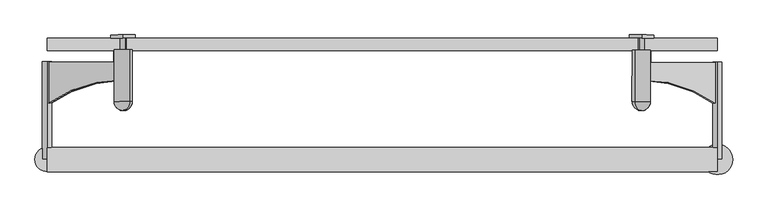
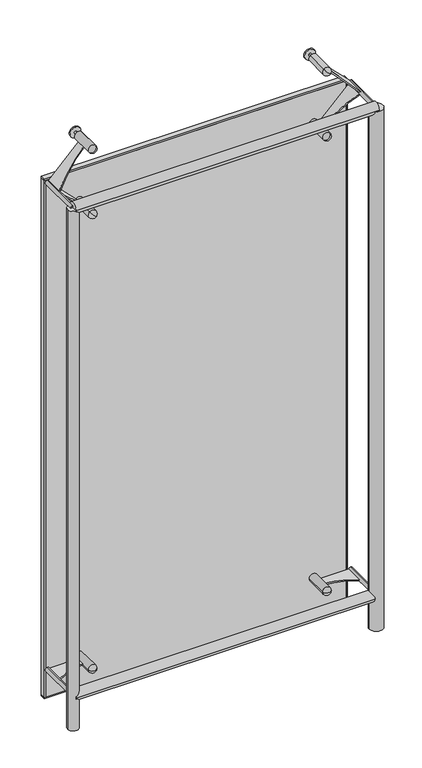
"""IFC4 building model written with IfcOpenShell, lengths in millimetres: plate geometry, FLATNING_TRYOUT : FLATNING_TRYOUT."""

from ifc_helpers import new_model, si_unit, point, frame, frame_2d, origin, origin_with_axes, place, context, project, spatial, polyline, circle_curve, ellipse_curve, trimmed, segment, composite_curve, outline, extrude, source, transform, mapped, element, save
from ifc_brep_helpers import plane_surface, cylinder_surface, revolved_surface, advanced_brep


def plate_8050aac1(model_context):
    return source(origin(), model_context, "Body", "SolidModel", [
        extrude(outline(composite_curve([segment(polyline([(29.9999999, 0.0), (30.0, -177.0), (-40.0000001, -177.0)]), True, "CONTINUOUS"), segment(trimmed(circle_curve(frame_2d((-375.1980994, -8.2292431)), 375.2883348), [point((-40.0000001, -177.0))], [point((0.0, 0.0))], True, "CARTESIAN"), True, "CONTINUOUS"), segment(polyline([(0.0, 0.0), (29.9999999, 0.0)]), True, "CONTINUOUS")], self_intersect=False)), frame((425.2156771, -69.2674093, 2123.3901333), z_axis=(0.7070974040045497, -0.003641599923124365, 0.7071067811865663), x_axis=(0.005150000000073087, 0.9999867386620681, 0.0)), (0.0, 0.0, 1.0), 5.0),
        advanced_brep(
        [(427.3439206, 0.7225584, 2125.1579003), (430.8794076, 0.7043504, 2121.6223664), (423.8084336, 0.7407664, 2128.6934342), (416.6344596, -19.2225524, 2135.764502), (437.8473817, -19.3318004, 2114.5512986), (437.4096317, -104.3306732, 2114.5512986), (416.1967096, -104.2214252, 2135.764502), (423.7054336, -19.2589684, 2128.6934342), (430.7764076, -19.2953844, 2121.6223664), (426.7259206, -119.2758503, 2125.1579003)],
        [
            (0, 1),
            (1, 2, circle_curve(frame((427.3439206, 0.7225584, 2125.1579003), z_axis=(0.005150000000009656, 0.9999867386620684, 0.0), x_axis=(0.7070974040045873, -0.0036415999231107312, -0.7071067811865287)), 5.0)),
            (2, 0),
            (2, 1, circle_curve(frame((427.3439206, 0.7225584, 2125.1579003), z_axis=(0.005150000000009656, 0.9999867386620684, 0.0), x_axis=(0.7070974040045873, -0.0036415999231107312, -0.7071067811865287)), 5.0)),
            (3, 4, circle_curve(frame((427.2409206, -19.2771764, 2125.1579003), z_axis=(-0.005150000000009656, -0.9999867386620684, 0.0), x_axis=(0.7070974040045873, -0.0036415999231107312, -0.7071067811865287)), 15.0)),
            (4, 5),
            (5, 6, circle_curve(frame((426.8031706, -104.2760492, 2125.1579003), z_axis=(0.005150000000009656, 0.9999867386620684, 0.0), x_axis=(0.7070974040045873, -0.0036415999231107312, -0.7071067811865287)), 15.0)),
            (6, 3),
            (4, 3, circle_curve(frame((427.2409206, -19.2771764, 2125.1579003), z_axis=(-0.005150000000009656, -0.9999867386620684, 0.0), x_axis=(0.7070974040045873, -0.0036415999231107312, -0.7071067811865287)), 15.0)),
            (6, 5, circle_curve(frame((426.8031706, -104.2760492, 2125.1579003), z_axis=(0.005150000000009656, 0.9999867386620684, 0.0), x_axis=(0.7070974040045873, -0.0036415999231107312, -0.7071067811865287)), 15.0)),
            (7, 8, circle_curve(frame((427.2409206, -19.2771764, 2125.1579003), z_axis=(-0.005150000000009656, -0.9999867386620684, 0.0), x_axis=(0.7070974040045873, -0.0036415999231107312, -0.7071067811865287)), 5.0)),
            (8, 4),
            (3, 7),
            (8, 7, circle_curve(frame((427.2409206, -19.2771764, 2125.1579003), z_axis=(-0.005150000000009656, -0.9999867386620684, 0.0), x_axis=(0.7070974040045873, -0.0036415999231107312, -0.7071067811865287)), 5.0)),
            (1, 8),
            (7, 2),
            (5, 9, circle_curve(frame((426.8031706, -104.2760492, 2125.1579003), z_axis=(-0.7070974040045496, 0.0036415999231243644, -0.7071067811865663), x_axis=(0.7070974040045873, -0.0036415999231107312, -0.7071067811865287)), 15.0)),
            (9, 6, circle_curve(frame((426.8031706, -104.2760492, 2125.1579003), z_axis=(-0.7070974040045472, 0.0036415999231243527, -0.7071067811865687), x_axis=(-0.7070974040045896, 0.003641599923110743, 0.7071067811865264)), 15.0)),
        ],
        [
            plane_surface(frame((427.3439206, 0.7225584, 2125.1579003), z_axis=(0.005150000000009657, 0.9999867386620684, 0.0), x_axis=(0.7070974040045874, -0.0036415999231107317, -0.7071067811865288))),
            cylinder_surface(frame((430.0734206, 530.7155299, 2125.1579003), z_axis=(0.005150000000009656, 0.9999867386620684, 0.0), x_axis=(0.7070974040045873, -0.0036415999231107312, -0.7071067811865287)), 15.0),
            plane_surface(frame((427.2409206, -19.2771764, 2125.1579003), z_axis=(0.005150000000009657, 0.9999867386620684, 0.0), x_axis=(0.7070974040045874, -0.0036415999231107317, -0.7071067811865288))),
            cylinder_surface(frame((430.0734206, 530.7155299, 2125.1579003), z_axis=(0.005150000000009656, 0.9999867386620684, 0.0), x_axis=(0.7070974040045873, -0.0036415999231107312, -0.7071067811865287)), 5.0),
            revolved_surface(trimmed(ellipse_curve(frame((426.8031706, -104.2760492, 2125.1579003), z_axis=(0.7070974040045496, -0.0036415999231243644, 0.7071067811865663), x_axis=(0.7070974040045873, -0.0036415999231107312, -0.7071067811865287)), 15.0, 15.0), [point((426.7259206, -119.2758503, 2125.1579003))], [point((437.4096317, -104.3306732, 2114.5512986))], True, "CARTESIAN"), (430.0734206, 530.7155299, 2125.1579003), (0.005150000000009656, 0.9999867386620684, 0.0)),
        ],
        [
            (0, [[1, 2, 3]]),
            (0, [[-3, 4, -1]]),
            (1, [[5, 6, 7, 8]]),
            (1, [[9, -8, 10, -6]]),
            (2, [[11, 12, -5, 13]]),
            (2, [[14, -13, -9, -12]]),
            (3, [[-2, 15, -11, 16]]),
            (3, [[-4, -16, -14, -15]]),
            (4, [[-7, 17, 18]]),
            (4, [[-10, -18, -17]]),
        ],
    ),
        extrude(outline(composite_curve([segment(polyline([(-30.0, 0.0), (0.0, 0.0)]), True, "CONTINUOUS"), segment(trimmed(circle_curve(frame_2d((375.1980994, -8.2292431)), 375.2883348), [point((0.0, 0.0))], [point((40.0, -177.0))], True, "CARTESIAN"), True, "CONTINUOUS"), segment(polyline([(40.0, -177.0), (-30.0, -177.0), (-30.0, 0.0)]), True, "CONTINUOUS")], self_intersect=False)), frame((-425.2127575, -68.8166307, 2123.3901333), z_axis=(-0.7070974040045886, -0.003641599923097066, 0.7071067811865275), x_axis=(0.005150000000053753, -0.9999867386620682, 0.0)), (0.0, 0.0, 1.0), 5.0),
        advanced_brep(
        [(-427.341001, 1.173337, 2125.1579003), (-430.876488, 1.155129, 2121.6223664), (-423.805514, 1.191545, 2128.6934342), (-416.63154, -18.7717738, 2135.764502), (-437.8444621, -18.8810218, 2114.5512986), (-437.4067121, -103.8798945, 2114.5512986), (-416.19379, -103.7706466, 2135.764502), (-423.702514, -18.8081898, 2128.6934342), (-430.773488, -18.8446058, 2121.6223664), (-426.723001, -118.8250716, 2125.1579003)],
        [
            (0, 1),
            (1, 2, circle_curve(frame((-427.341001, 1.173337, 2125.1579003), z_axis=(-0.005149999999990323, 0.9999867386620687, 0.0), x_axis=(-0.7070974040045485, -0.0036415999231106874, -0.7071067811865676)), 5.0)),
            (2, 0),
            (2, 1, circle_curve(frame((-427.341001, 1.173337, 2125.1579003), z_axis=(-0.005149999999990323, 0.9999867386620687, 0.0), x_axis=(-0.7070974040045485, -0.0036415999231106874, -0.7071067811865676)), 5.0)),
            (3, 4, circle_curve(frame((-427.238001, -18.8263978, 2125.1579003), z_axis=(0.005149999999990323, -0.9999867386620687, 0.0), x_axis=(-0.7070974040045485, -0.0036415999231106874, -0.7071067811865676)), 15.0)),
            (4, 5),
            (5, 6, circle_curve(frame((-426.800251, -103.8252705, 2125.1579003), z_axis=(-0.005149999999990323, 0.9999867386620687, 0.0), x_axis=(-0.7070974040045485, -0.0036415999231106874, -0.7071067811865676)), 15.0)),
            (6, 3),
            (4, 3, circle_curve(frame((-427.238001, -18.8263978, 2125.1579003), z_axis=(0.005149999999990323, -0.9999867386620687, 0.0), x_axis=(-0.7070974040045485, -0.0036415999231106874, -0.7071067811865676)), 15.0)),
            (6, 5, circle_curve(frame((-426.800251, -103.8252705, 2125.1579003), z_axis=(-0.005149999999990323, 0.9999867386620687, 0.0), x_axis=(-0.7070974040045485, -0.0036415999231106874, -0.7071067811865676)), 15.0)),
            (7, 8, circle_curve(frame((-427.238001, -18.8263978, 2125.1579003), z_axis=(0.005149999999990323, -0.9999867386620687, 0.0), x_axis=(-0.7070974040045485, -0.0036415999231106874, -0.7071067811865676)), 5.0)),
            (8, 4),
            (3, 7),
            (8, 7, circle_curve(frame((-427.238001, -18.8263978, 2125.1579003), z_axis=(0.005149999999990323, -0.9999867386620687, 0.0), x_axis=(-0.7070974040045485, -0.0036415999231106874, -0.7071067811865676)), 5.0)),
            (1, 8),
            (7, 2),
            (5, 9, circle_curve(frame((-426.800251, -103.8252705, 2125.1579003), z_axis=(-0.7070974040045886, -0.003641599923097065, 0.7071067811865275), x_axis=(-0.7070974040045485, -0.0036415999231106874, -0.7071067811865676)), 15.0)),
            (9, 6, circle_curve(frame((-426.800251, -103.8252705, 2125.1579003), z_axis=(-0.707097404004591, -0.0036415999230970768, 0.7071067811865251), x_axis=(0.7070974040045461, 0.0036415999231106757, 0.7071067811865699)), 15.0)),
        ],
        [
            plane_surface(frame((-427.341001, 1.173337, 2125.1579003), z_axis=(-0.005149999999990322, 0.9999867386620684, 0.0), x_axis=(-0.7070974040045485, -0.0036415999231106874, -0.7071067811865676))),
            cylinder_surface(frame((-430.070501, 531.1663085, 2125.1579003), z_axis=(-0.005149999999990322, 0.9999867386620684, 0.0), x_axis=(-0.7070974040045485, -0.0036415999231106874, -0.7071067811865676)), 15.0),
            plane_surface(frame((-427.238001, -18.8263978, 2125.1579003), z_axis=(-0.005149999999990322, 0.9999867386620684, 0.0), x_axis=(-0.7070974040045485, -0.0036415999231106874, -0.7071067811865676))),
            cylinder_surface(frame((-430.070501, 531.1663085, 2125.1579003), z_axis=(-0.005149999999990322, 0.9999867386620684, 0.0), x_axis=(-0.7070974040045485, -0.0036415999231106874, -0.7071067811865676)), 5.0),
            revolved_surface(trimmed(ellipse_curve(frame((-426.800251, -103.8252705, 2125.1579003), z_axis=(0.7070974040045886, 0.003641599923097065, -0.7071067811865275), x_axis=(-0.7070974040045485, -0.0036415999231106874, -0.7071067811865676)), 15.0, 15.0), [point((-426.723001, -118.8250716, 2125.1579003))], [point((-437.4067121, -103.8798945, 2114.5512986))], True, "CARTESIAN"), (-430.070501, 531.1663085, 2125.1579003), (-0.005149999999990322, 0.9999867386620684, 0.0)),
        ],
        [
            (0, [[1, 2, 3]]),
            (0, [[-3, 4, -1]]),
            (1, [[5, 6, 7, 8]]),
            (1, [[9, -8, 10, -6]]),
            (2, [[11, 12, -5, 13]]),
            (2, [[14, -13, -9, -12]]),
            (3, [[-2, 15, -11, 16]]),
            (3, [[-4, -16, -14, -15]]),
            (4, [[-7, 17, 18]]),
            (4, [[-10, -18, -17]]),
        ],
    ),
        extrude(outline(composite_curve([segment(polyline([(30.0, 0.0), (30.0, -176.9999999), (-40.0, -176.9999999)]), True, "CONTINUOUS"), segment(trimmed(circle_curve(frame_2d((-375.1980994, -8.2292431)), 375.2883348), [point((-40.0, -176.9999999))], [point((0.0, 0.0))], True, "CARTESIAN"), True, "CONTINUOUS"), segment(polyline([(0.0, 0.0), (30.0, 0.0)]), True, "CONTINUOUS")], self_intersect=False)), frame((428.751003, -69.2856165, 1873.0743328), z_axis=(-0.7070974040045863, 0.0036415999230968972, 0.7071067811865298), x_axis=(0.005150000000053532, 0.9999867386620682, 0.0)), (0.0, 0.0, 1.0), 5.0),
        advanced_brep(
        [(427.3437595, 0.7225592, 1874.8420997), (430.8792465, 0.7043512, 1878.3776336), (423.8082725, 0.7407672, 1871.3065658), (416.6342984, -19.2225516, 1864.235498), (437.8472206, -19.3317996, 1885.4487014), (437.4094706, -104.3306723, 1885.4487014), (416.1965484, -104.2214243, 1864.235498), (423.7052725, -19.2589676, 1871.3065658), (430.7762465, -19.2953836, 1878.3776336), (426.7257595, -119.2758494, 1874.8420997)],
        [
            (0, 1),
            (1, 2, circle_curve(frame((427.3437595, 0.7225592, 1874.8420997), z_axis=(0.005149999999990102, 0.9999867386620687, 0.0), x_axis=(0.7070974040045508, -0.0036415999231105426, 0.7071067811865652)), 5.0)),
            (2, 0),
            (2, 1, circle_curve(frame((427.3437595, 0.7225592, 1874.8420997), z_axis=(0.005149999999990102, 0.9999867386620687, 0.0), x_axis=(0.7070974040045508, -0.0036415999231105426, 0.7071067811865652)), 5.0)),
            (3, 4, circle_curve(frame((427.2407595, -19.2771756, 1874.8420997), z_axis=(-0.005149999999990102, -0.9999867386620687, 0.0), x_axis=(0.7070974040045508, -0.0036415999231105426, 0.7071067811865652)), 15.0)),
            (4, 5),
            (5, 6, circle_curve(frame((426.8030095, -104.2760483, 1874.8420997), z_axis=(0.005149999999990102, 0.9999867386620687, 0.0), x_axis=(0.7070974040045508, -0.0036415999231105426, 0.7071067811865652)), 15.0)),
            (6, 3),
            (4, 3, circle_curve(frame((427.2407595, -19.2771756, 1874.8420997), z_axis=(-0.005149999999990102, -0.9999867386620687, 0.0), x_axis=(0.7070974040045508, -0.0036415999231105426, 0.7071067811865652)), 15.0)),
            (6, 5, circle_curve(frame((426.8030095, -104.2760483, 1874.8420997), z_axis=(0.005149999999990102, 0.9999867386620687, 0.0), x_axis=(0.7070974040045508, -0.0036415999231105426, 0.7071067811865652)), 15.0)),
            (7, 8, circle_curve(frame((427.2407595, -19.2771756, 1874.8420997), z_axis=(-0.005149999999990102, -0.9999867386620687, 0.0), x_axis=(0.7070974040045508, -0.0036415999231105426, 0.7071067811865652)), 5.0)),
            (8, 4),
            (3, 7),
            (8, 7, circle_curve(frame((427.2407595, -19.2771756, 1874.8420997), z_axis=(-0.005149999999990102, -0.9999867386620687, 0.0), x_axis=(0.7070974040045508, -0.0036415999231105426, 0.7071067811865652)), 5.0)),
            (1, 8),
            (7, 2),
            (5, 9, circle_curve(frame((426.8030095, -104.2760483, 1874.8420997), z_axis=(0.7070974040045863, -0.0036415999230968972, -0.7071067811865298), x_axis=(0.7070974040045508, -0.0036415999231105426, 0.7071067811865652)), 15.0)),
            (9, 6, circle_curve(frame((426.8030095, -104.2760483, 1874.8420997), z_axis=(0.7070974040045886, -0.003641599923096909, -0.7071067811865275), x_axis=(-0.7070974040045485, 0.003641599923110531, -0.7071067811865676)), 15.0)),
        ],
        [
            plane_surface(frame((427.3437595, 0.7225592, 1874.8420997), z_axis=(0.005149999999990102, 0.9999867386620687, 0.0), x_axis=(0.7070974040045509, -0.003641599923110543, 0.7071067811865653))),
            cylinder_surface(frame((430.0732595, 530.7155307, 1874.8420997), z_axis=(0.005149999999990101, 0.9999867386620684, 0.0), x_axis=(0.7070974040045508, -0.0036415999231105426, 0.7071067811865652)), 15.0),
            plane_surface(frame((427.2407595, -19.2771756, 1874.8420997), z_axis=(0.005149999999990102, 0.9999867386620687, 0.0), x_axis=(0.7070974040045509, -0.003641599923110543, 0.7071067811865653))),
            cylinder_surface(frame((430.0732595, 530.7155307, 1874.8420997), z_axis=(0.005149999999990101, 0.9999867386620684, 0.0), x_axis=(0.7070974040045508, -0.0036415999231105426, 0.7071067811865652)), 5.0),
            revolved_surface(trimmed(ellipse_curve(frame((426.8030095, -104.2760483, 1874.8420997), z_axis=(-0.7070974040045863, 0.0036415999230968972, 0.7071067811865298), x_axis=(0.7070974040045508, -0.0036415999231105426, 0.7071067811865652)), 15.0, 15.0), [point((426.7257595, -119.2758494, 1874.8420997))], [point((437.4094706, -104.3306723, 1885.4487014))], True, "CARTESIAN"), (430.0732595, 530.7155307, 1874.8420997), (0.005149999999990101, 0.9999867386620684, 0.0)),
        ],
        [
            (0, [[1, 2, 3]]),
            (0, [[-3, 4, -1]]),
            (1, [[5, 6, 7, 8]]),
            (1, [[9, -8, 10, -6]]),
            (2, [[11, 12, -5, 13]]),
            (2, [[14, -13, -9, -12]]),
            (3, [[-2, 15, -11, 16]]),
            (3, [[-4, -16, -14, -15]]),
            (4, [[-7, 17, 18]]),
            (4, [[-10, -18, -17]]),
        ],
    ),
        extrude(outline(composite_curve([segment(polyline([(30.0, 0.0), (0.0, 0.0)]), True, "CONTINUOUS"), segment(trimmed(circle_curve(frame_2d((-375.1980994, 8.2292431)), 375.2883348), [point((0.0, 0.0))], [point((-40.0, 176.9999999))], True, "CARTESIAN"), True, "CONTINUOUS"), segment(polyline([(-40.0, 176.9999999), (30.0, 176.9999999), (30.0, 0.0)]), True, "CONTINUOUS")], self_intersect=False)), frame((-428.751003, -69.2856165, 1873.0743328), z_axis=(0.7070974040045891, 0.003641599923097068, 0.707106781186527), x_axis=(-0.005150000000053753, 0.9999867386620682, 0.0)), (0.0, 0.0, 1.0), 5.0),
        advanced_brep(
        [(-427.3437595, 0.7225592, 1874.8420997), (-423.8082725, 0.7407672, 1871.3065658), (-430.8792465, 0.7043512, 1878.3776336), (-416.6342984, -19.2225516, 1864.235498), (-416.1965484, -104.2214243, 1864.235498), (-437.4094706, -104.3306723, 1885.4487014), (-437.8472206, -19.3317996, 1885.4487014), (-423.7052725, -19.2589676, 1871.3065658), (-430.7762465, -19.2953836, 1878.3776336), (-426.7257595, -119.2758494, 1874.8420997)],
        [
            (0, 1),
            (1, 2, circle_curve(frame((-427.3437595, 0.7225592, 1874.8420997), z_axis=(-0.005149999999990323, 0.9999867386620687, 0.0), x_axis=(-0.707097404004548, -0.003641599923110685, 0.707106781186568)), 5.0)),
            (2, 0),
            (2, 1, circle_curve(frame((-427.3437595, 0.7225592, 1874.8420997), z_axis=(-0.005149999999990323, 0.9999867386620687, 0.0), x_axis=(-0.707097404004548, -0.003641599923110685, 0.707106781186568)), 5.0)),
            (3, 4),
            (4, 5, circle_curve(frame((-426.8030095, -104.2760483, 1874.8420997), z_axis=(-0.005149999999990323, 0.9999867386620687, 0.0), x_axis=(-0.707097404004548, -0.003641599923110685, 0.707106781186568)), 15.0)),
            (5, 6),
            (6, 3, circle_curve(frame((-427.2407595, -19.2771756, 1874.8420997), z_axis=(0.005149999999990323, -0.9999867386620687, 0.0), x_axis=(-0.707097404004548, -0.003641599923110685, 0.707106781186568)), 15.0)),
            (5, 4, circle_curve(frame((-426.8030095, -104.2760483, 1874.8420997), z_axis=(-0.005149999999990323, 0.9999867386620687, 0.0), x_axis=(-0.707097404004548, -0.003641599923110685, 0.707106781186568)), 15.0)),
            (3, 6, circle_curve(frame((-427.2407595, -19.2771756, 1874.8420997), z_axis=(0.005149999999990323, -0.9999867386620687, 0.0), x_axis=(-0.707097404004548, -0.003641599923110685, 0.707106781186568)), 15.0)),
            (7, 3),
            (6, 8),
            (8, 7, circle_curve(frame((-427.2407595, -19.2771756, 1874.8420997), z_axis=(0.005149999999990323, -0.9999867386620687, 0.0), x_axis=(-0.707097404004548, -0.003641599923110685, 0.707106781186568)), 5.0)),
            (7, 8, circle_curve(frame((-427.2407595, -19.2771756, 1874.8420997), z_axis=(0.005149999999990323, -0.9999867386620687, 0.0), x_axis=(-0.707097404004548, -0.003641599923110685, 0.707106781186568)), 5.0)),
            (1, 7),
            (8, 2),
            (4, 9, circle_curve(frame((-426.8030095, -104.2760483, 1874.8420997), z_axis=(-0.7070974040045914, -0.0036415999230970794, -0.7071067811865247), x_axis=(0.7070974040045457, 0.003641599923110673, -0.7071067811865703)), 15.0)),
            (9, 5, circle_curve(frame((-426.8030095, -104.2760483, 1874.8420997), z_axis=(-0.7070974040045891, -0.0036415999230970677, -0.707106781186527), x_axis=(-0.707097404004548, -0.003641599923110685, 0.707106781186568)), 15.0)),
        ],
        [
            plane_surface(frame((-427.3437595, 0.7225592, 1874.8420997), z_axis=(-0.005149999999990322, 0.9999867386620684, 0.0), x_axis=(-0.707097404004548, -0.003641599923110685, 0.707106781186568))),
            cylinder_surface(frame((-430.0732595, 530.7155307, 1874.8420997), z_axis=(-0.005149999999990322, 0.9999867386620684, 0.0), x_axis=(-0.707097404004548, -0.003641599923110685, 0.707106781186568)), 15.0),
            plane_surface(frame((-427.2407595, -19.2771756, 1874.8420997), z_axis=(-0.005149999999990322, 0.9999867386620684, 0.0), x_axis=(-0.707097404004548, -0.003641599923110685, 0.707106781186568))),
            cylinder_surface(frame((-430.0732595, 530.7155307, 1874.8420997), z_axis=(-0.005149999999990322, 0.9999867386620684, 0.0), x_axis=(-0.707097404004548, -0.003641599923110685, 0.707106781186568)), 5.0),
            revolved_surface(trimmed(ellipse_curve(frame((-426.8030095, -104.2760483, 1874.8420997), z_axis=(-0.7070974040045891, -0.0036415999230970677, -0.707106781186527), x_axis=(-0.707097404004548, -0.003641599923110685, 0.707106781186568)), 15.0, 15.0), [point((-426.7257595, -119.2758494, 1874.8420997))], [point((-437.4094706, -104.3306723, 1885.4487014))], True, "CARTESIAN"), (-430.0732595, 530.7155307, 1874.8420997), (-0.005149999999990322, 0.9999867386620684, 0.0)),
        ],
        [
            (0, [[1, 2, 3]]),
            (0, [[-3, 4, -1]]),
            (1, [[5, 6, 7, 8]]),
            (1, [[-7, 9, -5, 10]]),
            (2, [[11, -8, 12, 13]]),
            (2, [[-12, -10, -11, 14]]),
            (3, [[15, -13, 16, -2]]),
            (3, [[-16, -14, -15, -4]]),
            (4, [[17, 18, -6]]),
            (4, [[-18, -17, -9]]),
        ],
    ),
        extrude(outline(composite_curve([segment(polyline([(427.2956577, -38.8269599), (552.2940001, -39.4707099), (551.9335001, -109.4697816)]), True, "CONTINUOUS"), segment(trimmed(circle_curve(frame_2d((421.7588536, -297.257539)), 228.4943772), [point((551.9335001, -109.4697816))], [point((427.1411577, -68.8265621))], True, "CARTESIAN"), True, "CONTINUOUS"), segment(polyline([(427.1411577, -68.8265621), (427.2956577, -38.8269599)]), True, "CONTINUOUS")], self_intersect=False)), frame((0.0, 0.0, 122.5), z_axis=(0.0, 0.0, 1.0), x_axis=(1.0, 0.0, 0.0)), (0.0, 0.0, 1.0), 5.0),
        advanced_brep(
        [(427.5016577, 1.1725096, 125.0), (432.5015914, 1.1467596, 125.0), (422.501724, 1.1982596, 125.0), (412.3988566, -18.7499752, 125.0), (442.3984588, -18.9044752, 125.0), (441.9607088, -103.9033479, 125.0), (411.9611066, -103.7488479, 125.0), (422.398724, -18.8014752, 125.0), (432.3985914, -18.8529752, 125.0), (426.8836577, -118.825899, 125.0)],
        [
            (0, 1),
            (1, 2, circle_curve(frame((427.5016577, 1.1725096, 125.0), z_axis=(0.005149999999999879, 0.9999867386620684, 0.0), x_axis=(0.9999867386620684, -0.005149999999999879, 0.0)), 5.0)),
            (2, 0),
            (2, 1, circle_curve(frame((427.5016577, 1.1725096, 125.0), z_axis=(0.005149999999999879, 0.9999867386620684, 0.0), x_axis=(0.9999867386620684, -0.005149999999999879, 0.0)), 5.0)),
            (3, 4, circle_curve(frame((427.3986577, -18.8272252, 125.0), z_axis=(-0.005149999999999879, -0.9999867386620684, 0.0), x_axis=(0.9999867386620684, -0.005149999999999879, 0.0)), 15.0)),
            (4, 5),
            (5, 6, circle_curve(frame((426.9609077, -103.8260979, 125.0), z_axis=(0.005149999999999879, 0.9999867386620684, 0.0), x_axis=(0.9999867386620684, -0.005149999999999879, 0.0)), 15.0)),
            (6, 3),
            (4, 3, circle_curve(frame((427.3986577, -18.8272252, 125.0), z_axis=(-0.005149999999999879, -0.9999867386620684, 0.0), x_axis=(0.9999867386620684, -0.005149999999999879, 0.0)), 15.0)),
            (6, 5, circle_curve(frame((426.9609077, -103.8260979, 125.0), z_axis=(0.005149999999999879, 0.9999867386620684, 0.0), x_axis=(0.9999867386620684, -0.005149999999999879, 0.0)), 15.0)),
            (7, 8, circle_curve(frame((427.3986577, -18.8272252, 125.0), z_axis=(-0.005149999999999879, -0.9999867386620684, 0.0), x_axis=(0.9999867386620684, -0.005149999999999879, 0.0)), 5.0)),
            (8, 4),
            (3, 7),
            (8, 7, circle_curve(frame((427.3986577, -18.8272252, 125.0), z_axis=(-0.005149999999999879, -0.9999867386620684, 0.0), x_axis=(0.9999867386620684, -0.005149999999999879, 0.0)), 5.0)),
            (1, 8),
            (7, 2),
            (5, 9, circle_curve(frame((426.9609077, -103.8260979, 125.0), z_axis=(0.0, 0.0, -1.0), x_axis=(0.9999867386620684, -0.005149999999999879, 0.0)), 15.0)),
            (9, 6, circle_curve(frame((426.9609077, -103.8260979, 125.0), z_axis=(0.0, 0.0, -1.0), x_axis=(-0.9999867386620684, 0.005149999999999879, 0.0)), 15.0)),
        ],
        [
            plane_surface(frame((427.5016577, 1.1725096, 125.0), z_axis=(0.005149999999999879, 0.9999867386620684, 0.0), x_axis=(0.9999867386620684, -0.005149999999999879, 0.0))),
            cylinder_surface(frame((428.8149077, 256.169128, 125.0), z_axis=(0.005149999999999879, 0.9999867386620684, 0.0), x_axis=(0.9999867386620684, -0.005149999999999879, 0.0)), 15.0),
            plane_surface(frame((427.3986577, -18.8272252, 125.0), z_axis=(0.005149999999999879, 0.9999867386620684, 0.0), x_axis=(0.9999867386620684, -0.005149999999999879, 0.0))),
            cylinder_surface(frame((428.8149077, 256.169128, 125.0), z_axis=(0.005149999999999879, 0.9999867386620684, 0.0), x_axis=(0.9999867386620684, -0.005149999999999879, 0.0)), 5.0),
            revolved_surface(trimmed(ellipse_curve(frame((426.9609077, -103.8260979, 125.0), z_axis=(0.0, 0.0, 1.0), x_axis=(0.9999867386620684, -0.005149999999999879, 0.0)), 15.0, 15.0), [point((426.8836577, -118.825899, 125.0))], [point((441.9607088, -103.9033479, 125.0))], True, "CARTESIAN"), (428.8149077, 256.169128, 125.0), (0.005149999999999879, 0.9999867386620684, 0.0)),
        ],
        [
            (0, [[1, 2, 3]]),
            (0, [[-3, 4, -1]]),
            (1, [[5, 6, 7, 8]]),
            (1, [[9, -8, 10, -6]]),
            (2, [[11, 12, -5, 13]]),
            (2, [[14, -13, -9, -12]]),
            (3, [[-2, 15, -11, 16]]),
            (3, [[-4, -16, -14, -15]]),
            (4, [[-7, 17, 18]]),
            (4, [[-10, -18, -17]]),
        ],
    ),
        extrude(outline(composite_curve([segment(polyline([(-427.2956577, -38.8269599), (-427.1411577, -68.8265621)]), True, "CONTINUOUS"), segment(trimmed(circle_curve(frame_2d((-421.7588536, -297.257539)), 228.4943772), [point((-427.1411577, -68.8265621))], [point((-551.9335001, -109.4697816))], True, "CARTESIAN"), True, "CONTINUOUS"), segment(polyline([(-551.9335001, -109.4697816), (-552.2940001, -39.4707099), (-427.2956577, -38.8269599)]), True, "CONTINUOUS")], self_intersect=False)), frame((0.0, 0.0, 122.5), z_axis=(0.0, 0.0, 1.0), x_axis=(1.0, 0.0, 0.0)), (0.0, 0.0, 1.0), 5.0),
        advanced_brep(
        [(-427.5016577, 1.1725096, 125.0), (-432.5015914, 1.1467596, 125.0), (-422.501724, 1.1982596, 125.0), (-412.3988566, -18.7499752, 125.0), (-442.3984588, -18.9044752, 125.0), (-441.9607088, -103.9033479, 125.0), (-411.9611066, -103.7488479, 125.0), (-422.398724, -18.8014752, 125.0), (-432.3985914, -18.8529752, 125.0), (-426.8836577, -118.825899, 125.0)],
        [
            (0, 1),
            (1, 2, circle_curve(frame((-427.5016577, 1.1725096, 125.0), z_axis=(-0.0051500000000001, 0.9999867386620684, 0.0), x_axis=(-0.9999867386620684, -0.0051500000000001, 0.0)), 5.0)),
            (2, 0),
            (2, 1, circle_curve(frame((-427.5016577, 1.1725096, 125.0), z_axis=(-0.0051500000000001, 0.9999867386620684, 0.0), x_axis=(-0.9999867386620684, -0.0051500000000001, 0.0)), 5.0)),
            (3, 4, circle_curve(frame((-427.3986577, -18.8272252, 125.0), z_axis=(0.0051500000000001, -0.9999867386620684, 0.0), x_axis=(-0.9999867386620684, -0.0051500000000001, 0.0)), 15.0)),
            (4, 5),
            (5, 6, circle_curve(frame((-426.9609077, -103.8260979, 125.0), z_axis=(-0.0051500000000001, 0.9999867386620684, 0.0), x_axis=(-0.9999867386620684, -0.0051500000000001, 0.0)), 15.0)),
            (6, 3),
            (4, 3, circle_curve(frame((-427.3986577, -18.8272252, 125.0), z_axis=(0.0051500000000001, -0.9999867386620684, 0.0), x_axis=(-0.9999867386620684, -0.0051500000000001, 0.0)), 15.0)),
            (6, 5, circle_curve(frame((-426.9609077, -103.8260979, 125.0), z_axis=(-0.0051500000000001, 0.9999867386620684, 0.0), x_axis=(-0.9999867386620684, -0.0051500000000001, 0.0)), 15.0)),
            (7, 8, circle_curve(frame((-427.3986577, -18.8272252, 125.0), z_axis=(0.0051500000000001, -0.9999867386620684, 0.0), x_axis=(-0.9999867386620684, -0.0051500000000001, 0.0)), 5.0)),
            (8, 4),
            (3, 7),
            (8, 7, circle_curve(frame((-427.3986577, -18.8272252, 125.0), z_axis=(0.0051500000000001, -0.9999867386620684, 0.0), x_axis=(-0.9999867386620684, -0.0051500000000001, 0.0)), 5.0)),
            (1, 8),
            (7, 2),
            (5, 9, circle_curve(frame((-426.9609077, -103.8260979, 125.0), z_axis=(0.0, 0.0, 1.0), x_axis=(-0.9999867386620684, -0.0051500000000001, 0.0)), 15.0)),
            (9, 6, circle_curve(frame((-426.9609077, -103.8260979, 125.0), z_axis=(0.0, 0.0, 1.0), x_axis=(0.9999867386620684, 0.0051500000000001, 0.0)), 15.0)),
        ],
        [
            plane_surface(frame((-427.5016577, 1.1725096, 125.0), z_axis=(-0.0051500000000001, 0.9999867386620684, 0.0), x_axis=(-0.9999867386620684, -0.0051500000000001, 0.0))),
            cylinder_surface(frame((-428.8149077, 256.169128, 125.0), z_axis=(-0.0051500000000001, 0.9999867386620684, 0.0), x_axis=(-0.9999867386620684, -0.0051500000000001, 0.0)), 15.0),
            plane_surface(frame((-427.3986577, -18.8272252, 125.0), z_axis=(-0.0051500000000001, 0.9999867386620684, 0.0), x_axis=(-0.9999867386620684, -0.0051500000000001, 0.0))),
            cylinder_surface(frame((-428.8149077, 256.169128, 125.0), z_axis=(-0.0051500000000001, 0.9999867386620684, 0.0), x_axis=(-0.9999867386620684, -0.0051500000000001, 0.0)), 5.0),
            revolved_surface(trimmed(ellipse_curve(frame((-426.9609077, -103.8260979, 125.0), z_axis=(0.0, 0.0, -1.0), x_axis=(-0.9999867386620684, -0.0051500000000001, 0.0)), 15.0, 15.0), [point((-426.8836577, -118.825899, 125.0))], [point((-441.9607088, -103.9033479, 125.0))], True, "CARTESIAN"), (-428.8149077, 256.169128, 125.0), (-0.0051500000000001, 0.9999867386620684, 0.0)),
        ],
        [
            (0, [[1, 2, 3]]),
            (0, [[-3, 4, -1]]),
            (1, [[5, 6, 7, 8]]),
            (1, [[9, -8, 10, -6]]),
            (2, [[11, 12, -5, 13]]),
            (2, [[14, -13, -9, -12]]),
            (3, [[-2, 15, -11, 16]]),
            (3, [[-4, -16, -14, -15]]),
            (4, [[-7, 17, 18]]),
            (4, [[-10, -18, -17]]),
        ],
    ),
        extrude(outline(polyline([(552.5, -20.0), (-552.5, -20.0), (-552.5, 0.0), (552.5, 0.0), (552.5, -20.0)])), origin_with_axes(), (0.0, 0.0, 1.0), 5.0),
        extrude(outline(polyline([(552.5, -20.0), (-552.5, -20.0), (-552.5, 0.0), (552.5, 0.0), (552.5, -20.0)])), frame((0.0, 0.0, 1995.0), z_axis=(0.0, 0.0, 1.0), x_axis=(1.0, 0.0, 0.0)), (0.0, 0.0, 1.0), 5.0),
        extrude(outline(polyline([(547.5, 0.0781286), (552.5, 0.0781286), (552.5, -20.0), (547.5, -20.0), (547.5, 0.0781286)])), frame((0.0, 0.0, 5.0), z_axis=(0.0, 0.0, 1.0), x_axis=(1.0, 0.0, 0.0)), (0.0, 0.0, 1.0), 1990.0),
        extrude(outline(polyline([(-547.5, 0.5287596), (-547.5, -20.0), (-552.5000001, -20.0), (-552.5000001, 0.5287596), (-547.5, 0.5287596)])), frame((0.0, 0.0, 5.0), z_axis=(0.0, 0.0, 1.0), x_axis=(1.0, 0.0, 0.0)), (0.0, 0.0, 1.0), 1990.0),
        extrude(outline(polyline([(547.5, -20.0), (-547.5, -20.0), (-547.5, 0.0), (547.5, 0.0), (547.5, -20.0)])), frame((0.0, 0.0, 5.0), z_axis=(0.0, 0.0, 1.0), x_axis=(1.0, 0.0, 0.0)), (0.0, 0.0, 1.0), 1990.0),
        extrude(outline(composite_curve([segment(trimmed(circle_curve(frame_2d((-200.0, 2000.0)), 20.0), [point((-220.0, 2000.0))], [point((-180.0, 2000.0))], False, "CARTESIAN"), True, "CONTINUOUS"), segment(trimmed(circle_curve(frame_2d((-200.0, 2000.0)), 20.0), [point((-180.0, 2000.0))], [point((-220.0, 2000.0))], False, "CARTESIAN"), True, "CONTINUOUS")], self_intersect=False)), frame((-552.5, 0.0, 0.0), z_axis=(1.0, 0.0, 0.0), x_axis=(0.0, 1.0, 0.0)), (0.0, 0.0, 1.0), 1105.0),
        extrude(outline(composite_curve([segment(trimmed(circle_curve(frame_2d((-200.0, 125.0)), 20.0), [point((-220.0, 125.0))], [point((-180.0, 125.0))], False, "CARTESIAN"), True, "CONTINUOUS"), segment(trimmed(circle_curve(frame_2d((-200.0, 125.0)), 20.0), [point((-180.0, 125.0))], [point((-220.0, 125.0))], False, "CARTESIAN"), True, "CONTINUOUS")], self_intersect=False)), frame((-552.5, 0.0, 0.0), z_axis=(1.0, 0.0, 0.0), x_axis=(0.0, 1.0, 0.0)), (0.0, 0.0, 1.0), 1105.0),
        extrude(outline(composite_curve([segment(trimmed(circle_curve(frame_2d((2000.0, -552.5)), 7.5), [point((1992.5, -552.5))], [point((2007.5, -552.5))], False, "CARTESIAN"), True, "CONTINUOUS"), segment(trimmed(circle_curve(frame_2d((2000.0, -552.5)), 7.5), [point((2007.5, -552.5))], [point((1992.5, -552.5))], False, "CARTESIAN"), True, "CONTINUOUS")], self_intersect=False)), frame((0.0, -198.6528093, 0.0), z_axis=(0.0, 1.0, 0.0), x_axis=(0.0, 0.0, 1.0)), (0.0, 0.0, 1.0), 160.0),
        extrude(outline(composite_curve([segment(trimmed(circle_curve(frame_2d((2000.0, 552.5)), 7.5), [point((1992.5, 552.5))], [point((2007.5, 552.5))], False, "CARTESIAN"), True, "CONTINUOUS"), segment(trimmed(circle_curve(frame_2d((2000.0, 552.5)), 7.5), [point((2007.5, 552.5))], [point((1992.5, 552.5))], False, "CARTESIAN"), True, "CONTINUOUS")], self_intersect=False)), frame((0.0, -199.2242369, 0.0), z_axis=(0.0, 1.0, 0.0), x_axis=(0.0, 0.0, 1.0)), (0.0, 0.0, 1.0), 160.0),
        extrude(outline(composite_curve([segment(trimmed(circle_curve(frame_2d((0.0, -20.0)), 20.0), [point((0.0, -40.0))], [point((0.0, 0.0))], False, "CARTESIAN"), True, "CONTINUOUS"), segment(trimmed(circle_curve(frame_2d((0.0, -20.0)), 20.0), [point((0.0, 0.0))], [point((0.0, -40.0))], False, "CARTESIAN"), True, "CONTINUOUS")], self_intersect=False)), frame((-427.47425, 0.7218872, 1895.0), z_axis=(-0.005150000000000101, 0.9999867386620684, 0.0), x_axis=(-0.9999867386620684, -0.005150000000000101, 0.0)), (0.0, 0.0, 1.0), 5.0),
        extrude(outline(composite_curve([segment(trimmed(circle_curve(frame_2d((0.0, 230.0)), 20.0), [point((0.0, 210.0))], [point((0.0, 250.0))], False, "CARTESIAN"), True, "CONTINUOUS"), segment(trimmed(circle_curve(frame_2d((0.0, 230.0)), 20.0), [point((0.0, 250.0))], [point((0.0, 210.0))], False, "CARTESIAN"), True, "CONTINUOUS")], self_intersect=False)), frame((-427.47425, 0.7218872, 1895.0), z_axis=(-0.005150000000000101, 0.9999867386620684, 0.0), x_axis=(-0.9999867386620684, -0.005150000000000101, 0.0)), (0.0, 0.0, 1.0), 5.0),
        extrude(outline(composite_curve([segment(trimmed(circle_curve(frame_2d((0.0, -20.0)), 20.0), [point((0.0, -40.0))], [point((0.0, 0.0))], False, "CARTESIAN"), True, "CONTINUOUS"), segment(trimmed(circle_curve(frame_2d((0.0, -20.0)), 20.0), [point((0.0, 0.0))], [point((0.0, -40.0))], False, "CARTESIAN"), True, "CONTINUOUS")], self_intersect=False)), frame((427.47425, 0.7218872, 1895.0), z_axis=(0.005149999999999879, 0.9999867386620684, 0.0), x_axis=(-0.9999867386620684, 0.005149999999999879, 0.0)), (0.0, 0.0, 1.0), 5.0),
        extrude(outline(composite_curve([segment(trimmed(circle_curve(frame_2d((0.0, 230.0)), 20.0), [point((0.0, 210.0))], [point((0.0, 250.0))], False, "CARTESIAN"), True, "CONTINUOUS"), segment(trimmed(circle_curve(frame_2d((0.0, 230.0)), 20.0), [point((0.0, 250.0))], [point((0.0, 210.0))], False, "CARTESIAN"), True, "CONTINUOUS")], self_intersect=False)), frame((427.47425, 0.7218872, 1895.0), z_axis=(0.005149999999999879, 0.9999867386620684, 0.0), x_axis=(-0.9999867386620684, 0.005149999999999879, 0.0)), (0.0, 0.0, 1.0), 5.0),
        extrude(outline(composite_curve([segment(trimmed(circle_curve(frame_2d((125.0, 552.5)), 7.5), [point((117.5, 552.5))], [point((132.5, 552.5))], False, "CARTESIAN"), True, "CONTINUOUS"), segment(trimmed(circle_curve(frame_2d((125.0, 552.5)), 7.5), [point((132.5, 552.5))], [point((117.5, 552.5))], False, "CARTESIAN"), True, "CONTINUOUS")], self_intersect=False)), frame((0.0, -199.2589491, 0.0), z_axis=(0.0, 1.0, 0.0), x_axis=(0.0, 0.0, 1.0)), (0.0, 0.0, 1.0), 160.0),
        extrude(outline(composite_curve([segment(trimmed(circle_curve(frame_2d((0.0, -20.0)), 20.0), [point((0.0, -40.0))], [point((0.0, 0.0))], False, "CARTESIAN"), True, "CONTINUOUS"), segment(trimmed(circle_curve(frame_2d((0.0, -20.0)), 20.0), [point((0.0, 0.0))], [point((0.0, -40.0))], False, "CARTESIAN"), True, "CONTINUOUS")], self_intersect=False)), frame((427.5, 0.7218872, 145.0), z_axis=(0.005149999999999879, 0.9999867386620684, 0.0), x_axis=(-0.9999867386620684, 0.005149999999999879, 0.0)), (0.0, 0.0, 1.0), 5.0),
        extrude(outline(composite_curve([segment(trimmed(circle_curve(frame_2d((125.0, -552.5)), 7.5), [point((117.5, -552.5))], [point((132.5, -552.5))], False, "CARTESIAN"), True, "CONTINUOUS"), segment(trimmed(circle_curve(frame_2d((125.0, -552.5)), 7.5), [point((132.5, -552.5))], [point((117.5, -552.5))], False, "CARTESIAN"), True, "CONTINUOUS")], self_intersect=False)), frame((0.0, -198.8047197, 0.0), z_axis=(0.0, 1.0, 0.0), x_axis=(0.0, 0.0, 1.0)), (0.0, 0.0, 1.0), 160.0),
        extrude(outline(composite_curve([segment(trimmed(circle_curve(frame_2d((0.0, -20.0)), 20.0), [point((0.0, -40.0))], [point((0.0, 0.0))], False, "CARTESIAN"), True, "CONTINUOUS"), segment(trimmed(circle_curve(frame_2d((0.0, -20.0)), 20.0), [point((0.0, 0.0))], [point((0.0, -40.0))], False, "CARTESIAN"), True, "CONTINUOUS")], self_intersect=False)), frame((-427.5, 0.7218872, 145.0), z_axis=(-0.005150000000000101, 0.9999867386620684, 0.0), x_axis=(-0.9999867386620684, -0.005150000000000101, 0.0)), (0.0, 0.0, 1.0), 5.0),
        extrude(outline(composite_curve([segment(trimmed(circle_curve(frame_2d((552.5, -200.0)), 25.0), [point((527.5, -200.0))], [point((577.5, -200.0))], False, "CARTESIAN"), True, "CONTINUOUS"), segment(trimmed(circle_curve(frame_2d((552.5, -200.0)), 25.0), [point((577.5, -200.0))], [point((527.5, -200.0))], False, "CARTESIAN"), True, "CONTINUOUS")], self_intersect=False)), origin_with_axes(), (0.0, 0.0, 1.0), 2000.0),
        extrude(outline(composite_curve([segment(trimmed(circle_curve(frame_2d((-552.5, -200.0)), 20.0), [point((-572.5, -200.0))], [point((-532.5, -200.0))], False, "CARTESIAN"), True, "CONTINUOUS"), segment(trimmed(circle_curve(frame_2d((-552.5, -200.0)), 20.0), [point((-532.5, -200.0))], [point((-572.5, -200.0))], False, "CARTESIAN"), True, "CONTINUOUS")], self_intersect=False)), origin_with_axes(), (0.0, 0.0, 1.0), 2000.0),
    ])


if __name__ == "__main__":
    model = new_model("IFC4")
    model_context = context("Model", 3, world=origin())
    ifc_project = project(units=[si_unit("LENGTHUNIT", "METRE", prefix="MILLI")], contexts=[model_context])
    site = spatial("IfcSite", under=ifc_project)
    building = spatial("IfcBuilding", under=site)
    placement = place(None, origin())
    plate_shape = plate_8050aac1(model_context)
    element("IfcPlate", 1, ObjectType="FLATNING_TRYOUT : FLATNING_TRYOUT", at=placement, inside=building, context=model_context, shape_type="MappedRepresentation", body=[
        mapped(plate_shape, transform((0.0, 0.0, 0.0), x_axis=(1.0, 0.0, 0.0), y_axis=(0.0, 1.0, 0.0), z_axis=(0.0, 0.0, 1.0))),
    ])
    save(model, "model.ifc")
